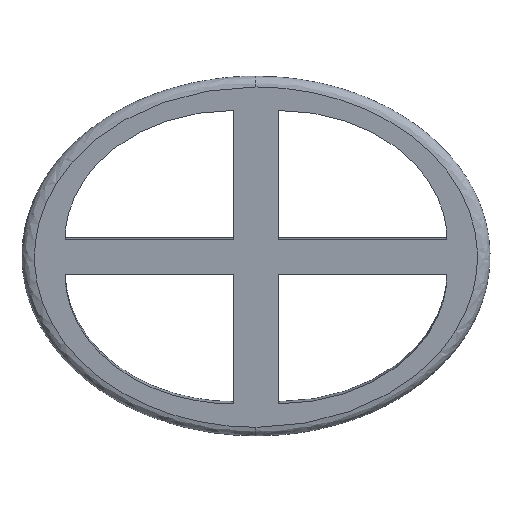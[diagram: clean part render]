
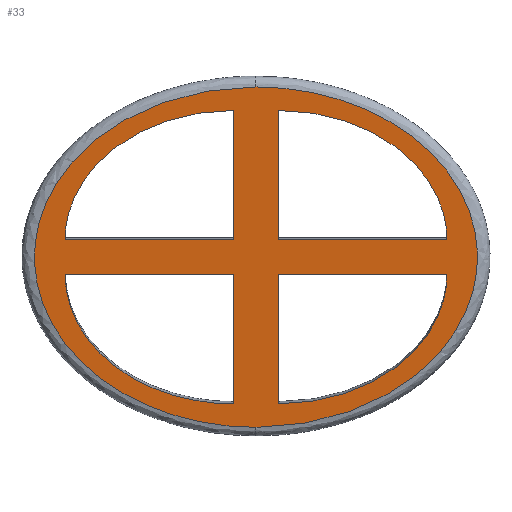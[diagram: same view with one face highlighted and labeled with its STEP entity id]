
A CAD part, front view. The second image highlights one B-rep face of the part: STEP entity #33.
In plain terms, the highlighted planar face has unit normal (-0.001, -0.994, -0.107).
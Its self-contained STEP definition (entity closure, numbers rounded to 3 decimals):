
#24=FACE_BOUND('',#70,.T.);
#25=FACE_BOUND('',#71,.T.);
#26=FACE_BOUND('',#72,.T.);
#27=FACE_BOUND('',#73,.T.);
#33=ADVANCED_FACE('',(#51,#24,#25,#26,#27),#308,.T.);
#51=FACE_OUTER_BOUND('',#69,.T.);
#69=EDGE_LOOP('',(#98,#99));
#70=EDGE_LOOP('',(#100,#101,#102));
#71=EDGE_LOOP('',(#103,#104,#105));
#72=EDGE_LOOP('',(#106,#107,#108));
#73=EDGE_LOOP('',(#109,#110,#111));
#98=ORIENTED_EDGE('',*,*,#197,.T.);
#99=ORIENTED_EDGE('',*,*,#231,.T.);
#100=ORIENTED_EDGE('',*,*,#204,.F.);
#101=ORIENTED_EDGE('',*,*,#189,.F.);
#102=ORIENTED_EDGE('',*,*,#188,.F.);
#103=ORIENTED_EDGE('',*,*,#190,.F.);
#104=ORIENTED_EDGE('',*,*,#208,.F.);
#105=ORIENTED_EDGE('',*,*,#191,.F.);
#106=ORIENTED_EDGE('',*,*,#192,.F.);
#107=ORIENTED_EDGE('',*,*,#215,.F.);
#108=ORIENTED_EDGE('',*,*,#193,.F.);
#109=ORIENTED_EDGE('',*,*,#225,.T.);
#110=ORIENTED_EDGE('',*,*,#194,.T.);
#111=ORIENTED_EDGE('',*,*,#195,.T.);
#188=EDGE_CURVE('',#279,#280,#232,.T.);
#189=EDGE_CURVE('',#280,#281,#233,.T.);
#190=EDGE_CURVE('',#283,#284,#234,.T.);
#191=EDGE_CURVE('',#284,#282,#235,.T.);
#192=EDGE_CURVE('',#286,#287,#236,.T.);
#193=EDGE_CURVE('',#287,#285,#237,.T.);
#194=EDGE_CURVE('',#288,#289,#238,.T.);
#195=EDGE_CURVE('',#289,#290,#239,.T.);
#197=EDGE_CURVE('',#303,#307,#259,.T.);
#204=EDGE_CURVE('',#281,#279,#261,.T.);
#208=EDGE_CURVE('',#282,#283,#265,.T.);
#215=EDGE_CURVE('',#285,#286,#269,.T.);
#225=EDGE_CURVE('',#290,#288,#271,.T.);
#231=EDGE_CURVE('',#307,#303,#277,.T.);
#232=B_SPLINE_CURVE_WITH_KNOTS('',1,(#1213,#1214),.UNSPECIFIED.,.F.,.F.,
(2,2),(6.283,6.783),.UNSPECIFIED.);
#233=B_SPLINE_CURVE_WITH_KNOTS('',1,(#1215,#1216),.UNSPECIFIED.,.F.,.F.,
(2,2),(6.783,7.783),.UNSPECIFIED.);
#234=B_SPLINE_CURVE_WITH_KNOTS('',1,(#1217,#1218),.UNSPECIFIED.,.F.,.F.,
(2,2),(5.142,6.142),.UNSPECIFIED.);
#235=B_SPLINE_CURVE_WITH_KNOTS('',1,(#1219,#1220),.UNSPECIFIED.,.F.,.F.,
(2,2),(6.142,6.642),.UNSPECIFIED.);
#236=B_SPLINE_CURVE_WITH_KNOTS('',1,(#1221,#1222),.UNSPECIFIED.,.F.,.F.,
(2,2),(6.142,7.142),.UNSPECIFIED.);
#237=B_SPLINE_CURVE_WITH_KNOTS('',1,(#1223,#1224),.UNSPECIFIED.,.F.,.F.,
(2,2),(7.142,7.642),.UNSPECIFIED.);
#238=B_SPLINE_CURVE_WITH_KNOTS('',1,(#1225,#1226),.UNSPECIFIED.,.F.,.F.,
(2,2),(0.,1.),.UNSPECIFIED.);
#239=B_SPLINE_CURVE_WITH_KNOTS('',1,(#1227,#1228),.UNSPECIFIED.,.F.,.F.,
(2,2),(1.,1.5),.UNSPECIFIED.);
#259=(
BOUNDED_CURVE()
B_SPLINE_CURVE(2,(#1234,#1235,#1236,#1237,#1238),.UNSPECIFIED.,.F.,.F.)
B_SPLINE_CURVE_WITH_KNOTS((3,2,3),(0.,1.571,3.142),
 .UNSPECIFIED.)
CURVE()
GEOMETRIC_REPRESENTATION_ITEM()
RATIONAL_B_SPLINE_CURVE((1.,0.707,1.,0.707,1.))
REPRESENTATION_ITEM('')
);
#261=(
BOUNDED_CURVE()
B_SPLINE_CURVE(2,(#1252,#1253,#1254),.UNSPECIFIED.,.F.,.F.)
B_SPLINE_CURVE_WITH_KNOTS((3,3),(7.783,9.354),
 .UNSPECIFIED.)
CURVE()
GEOMETRIC_REPRESENTATION_ITEM()
RATIONAL_B_SPLINE_CURVE((1.,0.707,1.))
REPRESENTATION_ITEM('')
);
#265=(
BOUNDED_CURVE()
B_SPLINE_CURVE(2,(#1262,#1263,#1264),.UNSPECIFIED.,.F.,.F.)
B_SPLINE_CURVE_WITH_KNOTS((3,3),(3.571,5.142),
 .UNSPECIFIED.)
CURVE()
GEOMETRIC_REPRESENTATION_ITEM()
RATIONAL_B_SPLINE_CURVE((1.,0.707,1.))
REPRESENTATION_ITEM('')
);
#269=(
BOUNDED_CURVE()
B_SPLINE_CURVE(2,(#1278,#1279,#1280),.UNSPECIFIED.,.F.,.F.)
B_SPLINE_CURVE_WITH_KNOTS((3,3),(4.571,6.142),
 .UNSPECIFIED.)
CURVE()
GEOMETRIC_REPRESENTATION_ITEM()
RATIONAL_B_SPLINE_CURVE((1.,0.707,1.))
REPRESENTATION_ITEM('')
);
#271=(
BOUNDED_CURVE()
B_SPLINE_CURVE(2,(#1300,#1301,#1302),.UNSPECIFIED.,.F.,.F.)
B_SPLINE_CURVE_WITH_KNOTS((3,3),(1.5,3.071),.UNSPECIFIED.)
CURVE()
GEOMETRIC_REPRESENTATION_ITEM()
RATIONAL_B_SPLINE_CURVE((1.,0.707,1.))
REPRESENTATION_ITEM('')
);
#277=(
BOUNDED_CURVE()
B_SPLINE_CURVE(2,(#1371,#1372,#1373,#1374,#1375),.UNSPECIFIED.,.F.,.F.)
B_SPLINE_CURVE_WITH_KNOTS((3,2,3),(3.142,4.712,6.283),
 .UNSPECIFIED.)
CURVE()
GEOMETRIC_REPRESENTATION_ITEM()
RATIONAL_B_SPLINE_CURVE((1.,0.707,1.,0.707,1.))
REPRESENTATION_ITEM('')
);
#279=VERTEX_POINT('',#1127);
#280=VERTEX_POINT('',#1128);
#281=VERTEX_POINT('',#1129);
#282=VERTEX_POINT('',#1130);
#283=VERTEX_POINT('',#1131);
#284=VERTEX_POINT('',#1132);
#285=VERTEX_POINT('',#1133);
#286=VERTEX_POINT('',#1134);
#287=VERTEX_POINT('',#1135);
#288=VERTEX_POINT('',#1136);
#289=VERTEX_POINT('',#1137);
#290=VERTEX_POINT('',#1138);
#303=VERTEX_POINT('',#1151);
#307=VERTEX_POINT('',#1155);
#308=PLANE('',#346);
#346=AXIS2_PLACEMENT_3D('',#552,#359,$);
#359=DIRECTION('',(-0.001,-0.994,-0.107));
#552=CARTESIAN_POINT('',(-32.317,-91.968,-15.423));
#1127=CARTESIAN_POINT('',(-3.316,-92.416,-11.589));
#1128=CARTESIAN_POINT('',(-3.316,-94.405,6.856));
#1129=CARTESIAN_POINT('',(-27.322,-94.376,6.859));
#1130=CARTESIAN_POINT('',(-3.316,-96.927,30.245));
#1131=CARTESIAN_POINT('',(-27.322,-94.909,11.803));
#1132=CARTESIAN_POINT('',(-3.316,-94.938,11.8));
#1133=CARTESIAN_POINT('',(3.119,-92.424,-11.59));
#1134=CARTESIAN_POINT('',(27.125,-94.442,6.852));
#1135=CARTESIAN_POINT('',(3.119,-94.413,6.855));
#1136=CARTESIAN_POINT('',(27.125,-94.975,11.796));
#1137=CARTESIAN_POINT('',(3.119,-94.946,11.799));
#1138=CARTESIAN_POINT('',(3.119,-96.934,30.244));
#1151=CARTESIAN_POINT('',(-0.098,-92.059,-14.942));
#1155=CARTESIAN_POINT('',(-0.098,-97.292,33.597));
#1213=CARTESIAN_POINT('',(-3.316,-92.416,-11.589));
#1214=CARTESIAN_POINT('',(-3.316,-94.405,6.856));
#1215=CARTESIAN_POINT('',(-3.316,-94.405,6.856));
#1216=CARTESIAN_POINT('',(-27.322,-94.376,6.859));
#1217=CARTESIAN_POINT('',(-27.322,-94.909,11.803));
#1218=CARTESIAN_POINT('',(-3.316,-94.938,11.8));
#1219=CARTESIAN_POINT('',(-3.316,-94.938,11.8));
#1220=CARTESIAN_POINT('',(-3.316,-96.927,30.245));
#1221=CARTESIAN_POINT('',(27.125,-94.442,6.852));
#1222=CARTESIAN_POINT('',(3.119,-94.413,6.855));
#1223=CARTESIAN_POINT('',(3.119,-94.413,6.855));
#1224=CARTESIAN_POINT('',(3.119,-92.424,-11.59));
#1225=CARTESIAN_POINT('',(27.125,-94.975,11.796));
#1226=CARTESIAN_POINT('',(3.119,-94.946,11.799));
#1227=CARTESIAN_POINT('',(3.119,-94.946,11.799));
#1228=CARTESIAN_POINT('',(3.119,-96.934,30.244));
#1234=CARTESIAN_POINT('',(-0.098,-92.059,-14.942));
#1235=CARTESIAN_POINT('',(31.489,-92.097,-14.946));
#1236=CARTESIAN_POINT('',(31.489,-94.713,9.323));
#1237=CARTESIAN_POINT('',(31.489,-97.33,33.593));
#1238=CARTESIAN_POINT('',(-0.098,-97.292,33.597));
#1252=CARTESIAN_POINT('',(-27.322,-94.376,6.859));
#1253=CARTESIAN_POINT('',(-27.322,-92.387,-11.586));
#1254=CARTESIAN_POINT('',(-3.316,-92.416,-11.589));
#1262=CARTESIAN_POINT('',(-3.316,-96.927,30.245));
#1263=CARTESIAN_POINT('',(-27.322,-96.898,30.248));
#1264=CARTESIAN_POINT('',(-27.322,-94.909,11.803));
#1278=CARTESIAN_POINT('',(3.119,-92.424,-11.59));
#1279=CARTESIAN_POINT('',(27.125,-92.453,-11.593));
#1280=CARTESIAN_POINT('',(27.125,-94.442,6.852));
#1300=CARTESIAN_POINT('',(3.119,-96.934,30.244));
#1301=CARTESIAN_POINT('',(27.125,-96.963,30.241));
#1302=CARTESIAN_POINT('',(27.125,-94.975,11.796));
#1371=CARTESIAN_POINT('',(-0.098,-97.292,33.597));
#1372=CARTESIAN_POINT('',(-31.685,-97.254,33.601));
#1373=CARTESIAN_POINT('',(-31.685,-94.637,9.331));
#1374=CARTESIAN_POINT('',(-31.685,-92.021,-14.938));
#1375=CARTESIAN_POINT('',(-0.098,-92.059,-14.942));
